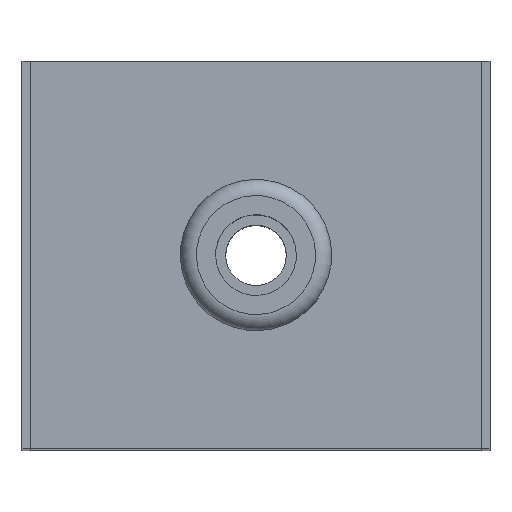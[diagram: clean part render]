
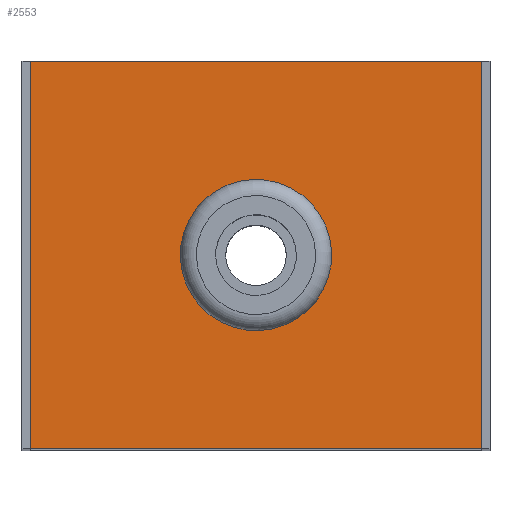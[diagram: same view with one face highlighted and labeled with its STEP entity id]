
A CAD part, top view. The second image highlights one B-rep face of the part: STEP entity #2553.
In plain terms, the highlighted planar face has unit normal (0, 0, 1).
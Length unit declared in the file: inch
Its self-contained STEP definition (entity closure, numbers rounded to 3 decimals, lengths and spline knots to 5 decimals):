
#135=FACE_BOUND('',#574,.T.);
#136=FACE_BOUND('',#575,.T.);
#245=PLANE('',#2770);
#574=EDGE_LOOP('',(#1952));
#575=EDGE_LOOP('',(#1953,#1954,#1955,#1956));
#716=LINE('',#14167,#878);
#718=LINE('',#14171,#880);
#719=LINE('',#14173,#881);
#720=LINE('',#14174,#882);
#878=VECTOR('',#3199,7.);
#880=VECTOR('',#3203,6.);
#881=VECTOR('',#3204,7.);
#882=VECTOR('',#3205,6.);
#1026=CIRCLE('',#2759,0.9375);
#1180=VERTEX_POINT('',#14128);
#1193=VERTEX_POINT('',#14164);
#1194=VERTEX_POINT('',#14166);
#1195=VERTEX_POINT('',#14170);
#1196=VERTEX_POINT('',#14172);
#1450=EDGE_CURVE('',#1180,#1180,#1026,.T.);
#1468=EDGE_CURVE('',#1194,#1193,#716,.T.);
#1470=EDGE_CURVE('',#1193,#1195,#718,.T.);
#1471=EDGE_CURVE('',#1196,#1195,#719,.T.);
#1472=EDGE_CURVE('',#1194,#1196,#720,.T.);
#1952=ORIENTED_EDGE('',*,*,#1450,.T.);
#1953=ORIENTED_EDGE('',*,*,#1470,.T.);
#1954=ORIENTED_EDGE('',*,*,#1471,.F.);
#1955=ORIENTED_EDGE('',*,*,#1472,.F.);
#1956=ORIENTED_EDGE('',*,*,#1468,.T.);
#2553=ADVANCED_FACE('',(#135,#136),#245,.T.);
#2759=AXIS2_PLACEMENT_3D('',#14129,#3164,#3165);
#2770=AXIS2_PLACEMENT_3D('',#14169,#3201,#3202);
#3164=DIRECTION('center_axis',(0.,0.,-1.));
#3165=DIRECTION('ref_axis',(-1.,0.,0.));
#3199=DIRECTION('',(-1.,0.,0.));
#3201=DIRECTION('center_axis',(0.,0.,1.));
#3202=DIRECTION('ref_axis',(-1.,0.,0.));
#3203=DIRECTION('',(0.,-1.,0.));
#3204=DIRECTION('',(-1.,0.,0.));
#3205=DIRECTION('',(0.,-1.,0.));
#14128=CARTESIAN_POINT('',(-0.9375,0.,0.));
#14129=CARTESIAN_POINT('Origin',(0.,0.,0.));
#14164=CARTESIAN_POINT('',(-3.5,3.,0.));
#14166=CARTESIAN_POINT('',(3.5,3.,0.));
#14167=CARTESIAN_POINT('',(3.5,3.,0.));
#14169=CARTESIAN_POINT('Origin',(3.5,3.,0.));
#14170=CARTESIAN_POINT('',(-3.5,-3.,0.));
#14171=CARTESIAN_POINT('',(-3.5,1.5,0.));
#14172=CARTESIAN_POINT('',(3.5,-3.,0.));
#14173=CARTESIAN_POINT('',(3.5,-3.,0.));
#14174=CARTESIAN_POINT('',(3.5,1.5,0.));
